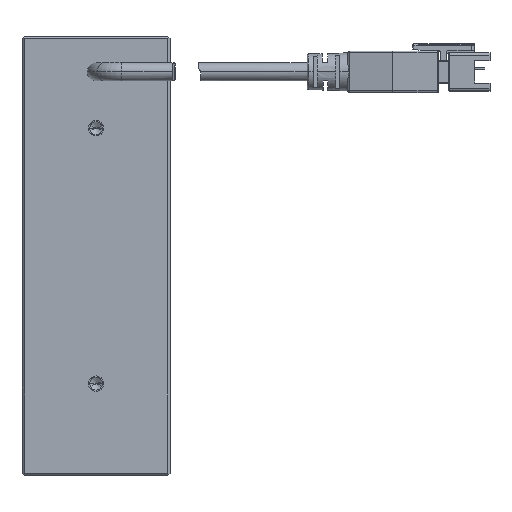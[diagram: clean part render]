
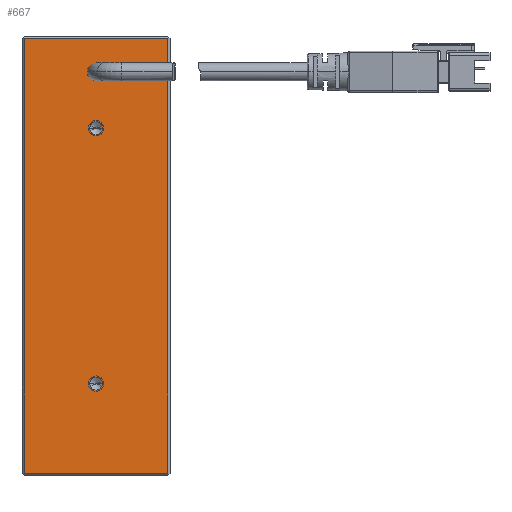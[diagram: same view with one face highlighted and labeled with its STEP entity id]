
A CAD part, top view. The second image highlights one B-rep face of the part: STEP entity #667.
In plain terms, the highlighted planar face has unit normal (0, 0, 1).
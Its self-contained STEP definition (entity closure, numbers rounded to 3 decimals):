
#2=CARTESIAN_POINT('',(0.,25.,0.));
#3=DIRECTION('',(0.,0.,1.));
#4=DIRECTION('',(-1.,0.,0.));
#5=AXIS2_PLACEMENT_3D('',#2,#3,#4);
#7=CARTESIAN_POINT('',(0.,25.,0.));
#8=DIRECTION('',(0.,0.,1.));
#9=DIRECTION('',(1.,0.,0.));
#10=AXIS2_PLACEMENT_3D('',#7,#8,#9);
#12=CARTESIAN_POINT('',(0.,-25.,0.));
#13=DIRECTION('',(0.,0.,1.));
#14=DIRECTION('',(-1.,0.,0.));
#15=AXIS2_PLACEMENT_3D('',#12,#13,#14);
#17=CARTESIAN_POINT('',(0.,-25.,0.));
#18=DIRECTION('',(0.,0.,1.));
#19=DIRECTION('',(1.,0.,0.));
#20=AXIS2_PLACEMENT_3D('',#17,#18,#19);
#22=CARTESIAN_POINT('',(0.,36.,0.));
#23=DIRECTION('',(0.,0.,1.));
#24=DIRECTION('',(0.,1.,0.));
#25=AXIS2_PLACEMENT_3D('',#22,#23,#24);
#27=CARTESIAN_POINT('',(0.,36.,0.));
#28=DIRECTION('',(0.,0.,1.));
#29=DIRECTION('',(0.,-1.,0.));
#30=AXIS2_PLACEMENT_3D('',#27,#28,#29);
#32=DIRECTION('',(1.,0.,0.));
#33=VECTOR('',#32,28.);
#34=CARTESIAN_POINT('',(-14.,-42.5,0.));
#35=LINE('',#34,#33);
#36=DIRECTION('',(0.,-1.,0.));
#37=VECTOR('',#36,85.);
#38=CARTESIAN_POINT('',(-14.,42.5,0.));
#39=LINE('',#38,#37);
#40=DIRECTION('',(-1.,0.,0.));
#41=VECTOR('',#40,28.);
#42=CARTESIAN_POINT('',(14.,42.5,0.));
#43=LINE('',#42,#41);
#44=DIRECTION('',(0.,1.,0.));
#45=VECTOR('',#44,85.);
#46=CARTESIAN_POINT('',(14.,-42.5,0.));
#47=LINE('',#46,#45);
#492=CARTESIAN_POINT('',(-1.25,25.,0.));
#493=CARTESIAN_POINT('',(1.25,25.,0.));
#494=VERTEX_POINT('',#492);
#495=VERTEX_POINT('',#493);
#502=CARTESIAN_POINT('',(-1.25,-25.,0.));
#503=CARTESIAN_POINT('',(1.25,-25.,0.));
#504=VERTEX_POINT('',#502);
#505=VERTEX_POINT('',#503);
#550=CARTESIAN_POINT('',(0.,37.75,0.));
#551=CARTESIAN_POINT('',(0.,34.25,0.));
#552=VERTEX_POINT('',#550);
#553=VERTEX_POINT('',#551);
#558=CARTESIAN_POINT('',(-14.,-42.5,0.));
#559=CARTESIAN_POINT('',(14.,-42.5,0.));
#560=VERTEX_POINT('',#558);
#561=VERTEX_POINT('',#559);
#566=CARTESIAN_POINT('',(14.,42.5,0.));
#567=CARTESIAN_POINT('',(-14.,42.5,0.));
#568=VERTEX_POINT('',#566);
#569=VERTEX_POINT('',#567);
#634=CARTESIAN_POINT('',(0.,-43.,0.));
#635=DIRECTION('',(0.,0.,1.));
#636=DIRECTION('',(0.,1.,0.));
#637=AXIS2_PLACEMENT_3D('',#634,#635,#636);
#638=PLANE('',#637);
#640=ORIENTED_EDGE('',*,*,#639,.F.);
#642=ORIENTED_EDGE('',*,*,#641,.F.);
#644=ORIENTED_EDGE('',*,*,#643,.F.);
#646=ORIENTED_EDGE('',*,*,#645,.F.);
#647=EDGE_LOOP('',(#640,#642,#644,#646));
#648=FACE_OUTER_BOUND('',#647,.F.);
#650=ORIENTED_EDGE('',*,*,#649,.T.);
#652=ORIENTED_EDGE('',*,*,#651,.T.);
#653=EDGE_LOOP('',(#650,#652));
#654=FACE_BOUND('',#653,.F.);
#656=ORIENTED_EDGE('',*,*,#655,.T.);
#658=ORIENTED_EDGE('',*,*,#657,.T.);
#659=EDGE_LOOP('',(#656,#658));
#660=FACE_BOUND('',#659,.F.);
#662=ORIENTED_EDGE('',*,*,#661,.T.);
#664=ORIENTED_EDGE('',*,*,#663,.T.);
#665=EDGE_LOOP('',(#662,#664));
#666=FACE_BOUND('',#665,.F.);
#667=ADVANCED_FACE('',(#648,#654,#660,#666),#638,.T.);
#6=CIRCLE('',#5,1.25);
#11=CIRCLE('',#10,1.25);
#16=CIRCLE('',#15,1.25);
#21=CIRCLE('',#20,1.25);
#26=CIRCLE('',#25,1.75);
#31=CIRCLE('',#30,1.75);
#639=EDGE_CURVE('',#560,#561,#35,.T.);
#641=EDGE_CURVE('',#569,#560,#39,.T.);
#643=EDGE_CURVE('',#568,#569,#43,.T.);
#645=EDGE_CURVE('',#561,#568,#47,.T.);
#649=EDGE_CURVE('',#494,#495,#6,.T.);
#651=EDGE_CURVE('',#495,#494,#11,.T.);
#655=EDGE_CURVE('',#504,#505,#16,.T.);
#657=EDGE_CURVE('',#505,#504,#21,.T.);
#661=EDGE_CURVE('',#552,#553,#26,.T.);
#663=EDGE_CURVE('',#553,#552,#31,.T.);
